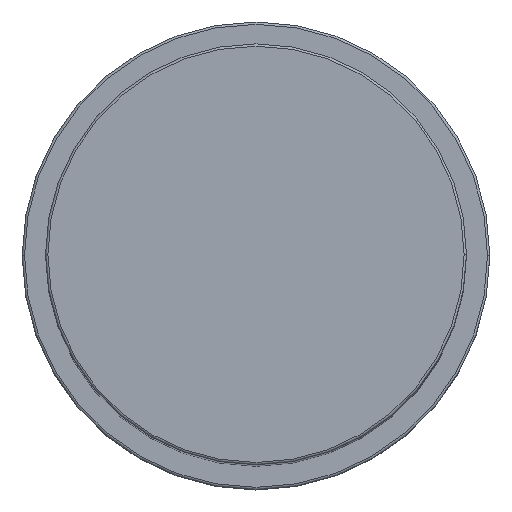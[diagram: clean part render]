
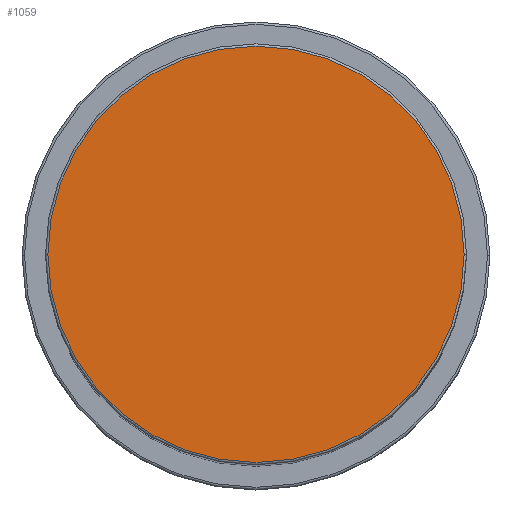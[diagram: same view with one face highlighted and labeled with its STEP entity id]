
A CAD part, top view. The second image highlights one B-rep face of the part: STEP entity #1059.
In plain terms, the highlighted planar face has unit normal (0, 0, 1).
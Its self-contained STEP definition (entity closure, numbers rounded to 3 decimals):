
#170 = ORIENTED_EDGE ( 'NONE', *, *, #1733, .T. ) ;
#315 = AXIS2_PLACEMENT_3D ( 'NONE', #1997, #1816, #1526 ) ;
#324 = CIRCLE ( 'NONE', #984, 44.5 ) ;
#431 = CARTESIAN_POINT ( 'NONE',  ( -44.5, 0., 204. ) ) ;
#599 = DIRECTION ( 'NONE',  ( 0., 0., 1. ) ) ;
#613 = DIRECTION ( 'NONE',  ( 1., 0., 0. ) ) ;
#894 = PLANE ( 'NONE',  #315 ) ;
#959 = AXIS2_PLACEMENT_3D ( 'NONE', #1264, #1095, #613 ) ;
#984 = AXIS2_PLACEMENT_3D ( 'NONE', #1552, #599, #1558 ) ;
#1059 = ADVANCED_FACE ( 'NONE', ( #1597 ), #894, .T. ) ;
#1095 = DIRECTION ( 'NONE',  ( 0., 0., 1. ) ) ;
#1264 = CARTESIAN_POINT ( 'NONE',  ( 0., 0., 204. ) ) ;
#1526 = DIRECTION ( 'NONE',  ( 1., 0., 0. ) ) ;
#1552 = CARTESIAN_POINT ( 'NONE',  ( 0., 0., 204. ) ) ;
#1557 = EDGE_LOOP ( 'NONE', ( #1742, #170 ) ) ;
#1558 = DIRECTION ( 'NONE',  ( 1., 0., 0. ) ) ;
#1597 = FACE_OUTER_BOUND ( 'NONE', #1557, .T. ) ;
#1621 = VERTEX_POINT ( 'NONE', #431 ) ;
#1623 = CIRCLE ( 'NONE', #959, 44.5 ) ;
#1624 = CARTESIAN_POINT ( 'NONE',  ( 44.5, 0., 204. ) ) ;
#1647 = EDGE_CURVE ( 'NONE', #1982, #1621, #1623, .T. ) ;
#1733 = EDGE_CURVE ( 'NONE', #1621, #1982, #324, .T. ) ;
#1742 = ORIENTED_EDGE ( 'NONE', *, *, #1647, .T. ) ;
#1816 = DIRECTION ( 'NONE',  ( 0., 0., 1. ) ) ;
#1982 = VERTEX_POINT ( 'NONE', #1624 ) ;
#1997 = CARTESIAN_POINT ( 'NONE',  ( 0., 0., 204. ) ) ;
